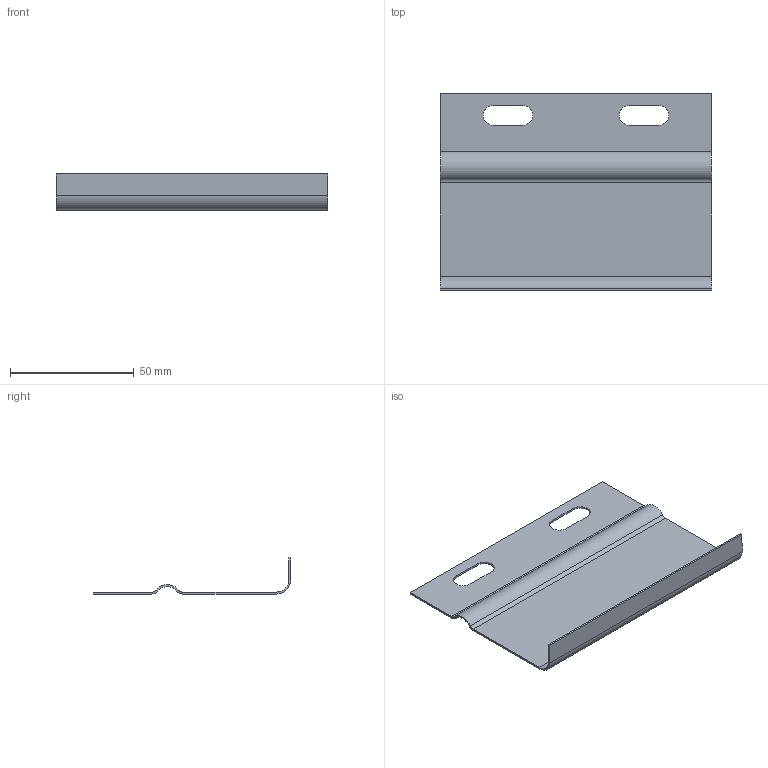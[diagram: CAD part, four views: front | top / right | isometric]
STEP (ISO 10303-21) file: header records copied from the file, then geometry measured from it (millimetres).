
FILE_DESCRIPTION (( 'STEP AP203' ), '1' );
FILE_NAME ('JUER 100.STEP', '2020-02-12T07:52:49', ( '' ), ( '' ), 'SwSTEP 2.0', 'SolidWorks 2019', '' );
FILE_SCHEMA (( 'CONFIG_CONTROL_DESIGN' ));
Length unit declared in the file: millimetre
Products named in the file (1): JUER 100
Bounding box: 110 x 80 x 14.62 mm (x, y, z)
Volume: 7980.2 mm3; surface area: 20354.4 mm2
Topology: 1 solids, 1 shells, 30 faces, 80 edges, 52 vertices
Faces by surface type: plane 16, cylinder 14
Entity records: 1025 total; most frequent: DIRECTION 170, CARTESIAN_POINT 163, ORIENTED_EDGE 160, EDGE_CURVE 80, AXIS2_PLACEMENT_3D 59, LINE 52, VECTOR 52, VERTEX_POINT 52
